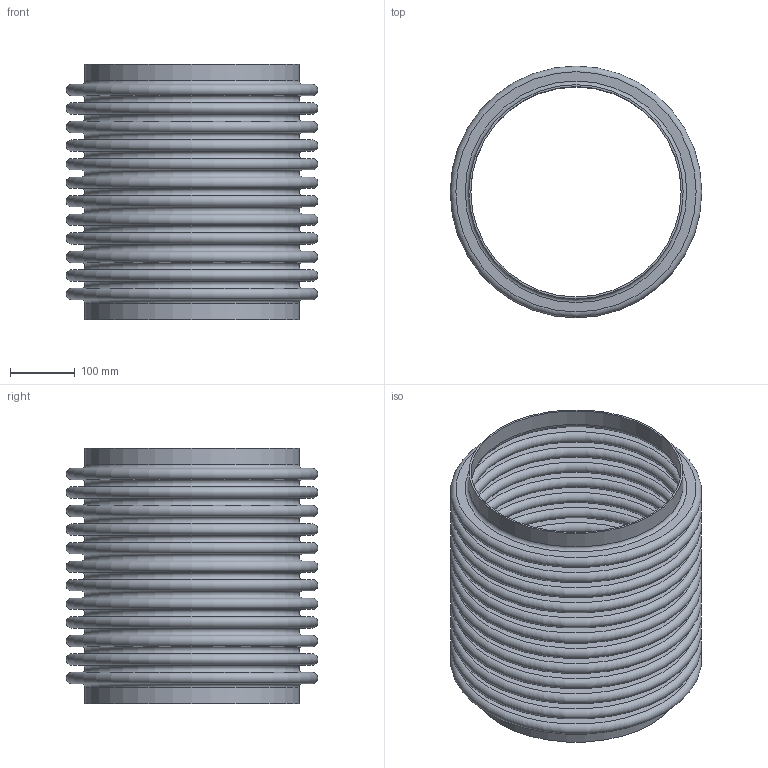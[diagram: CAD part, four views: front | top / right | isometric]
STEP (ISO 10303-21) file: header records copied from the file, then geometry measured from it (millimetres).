
FILE_DESCRIPTION(/* description */ ('STOCK BELLOWS: U.S-12-12-300L, 12.750 I.D., 15.250 O.D., 2 PLY, 16 GA (0.060 THICK), 12 CONS., 1.125 PITCH, 1.000 TANGENT. '),/* implementation_level */ '2;1');
FILE_NAME(/* name */ 'STOCK BELLOW - US-12-12-300L.stp',/* time_stamp */ '2026-07-21T13:29:24-05:00',/* author */ ('KennethB'),/* organization */ (''),/* preprocessor_version */ 'ST-DEVELOPER v20.1',/* originating_system */ 'Autodesk Inventor 2026',/* authorisation */ '');
FILE_SCHEMA (('AUTOMOTIVE_DESIGN { 1 0 10303 214 3 1 1 }'));
Length unit declared in the file: inch
Products named in the file (1): STOCK BELLOW - US-12-12-300L
Bounding box: 387.35 x 387.35 x 393.7 mm (x, y, z)
Volume: 3171056.4 mm3; surface area: 2099527.1 mm2
Topology: 3 solids, 3 shells, 108 faces, 162 edges, 109 vertices
Faces by surface type: plane 54, torus 50, cylinder 4
Full cylindrical faces by diameter (mm): 323.85 x2, 329.946 x2
Entity records: 2550 total; most frequent: DIRECTION 538, CARTESIAN_POINT 380, ORIENTED_EDGE 324, AXIS2_PLACEMENT_3D 267, EDGE_LOOP 162, EDGE_CURVE 162, CIRCLE 158, FACE_OUTER_BOUND 108
